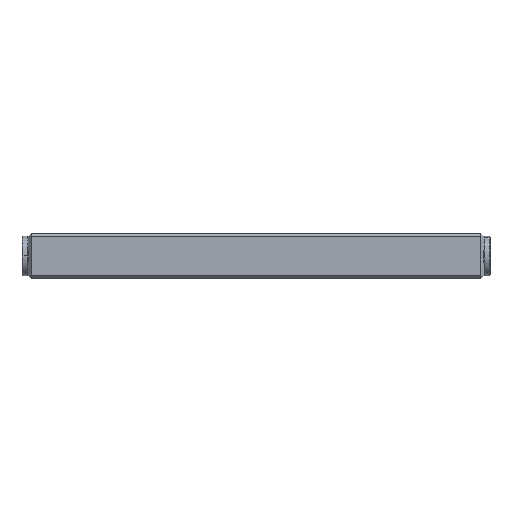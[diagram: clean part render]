
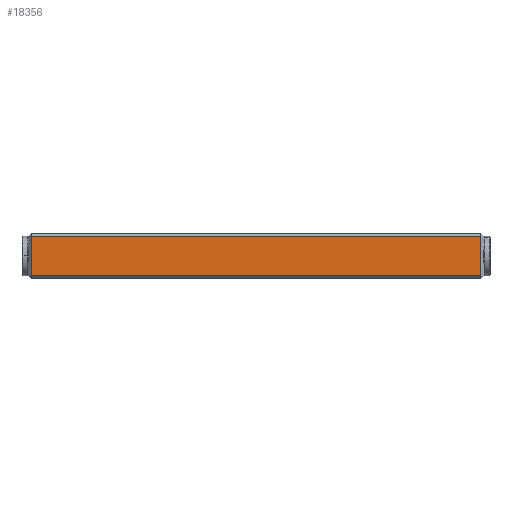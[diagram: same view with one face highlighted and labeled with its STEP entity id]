
A CAD part, top view. The second image highlights one B-rep face of the part: STEP entity #18356.
In plain terms, the highlighted planar face has unit normal (0, 0, 1).
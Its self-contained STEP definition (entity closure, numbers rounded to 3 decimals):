
#2445 = EDGE_CURVE ( 'NONE', #18573, #18633, #21160, .T. ) ;
#2446 = EDGE_CURVE ( 'NONE', #18633, #3783, #21164, .T. ) ;
#2447 = EDGE_CURVE ( 'NONE', #3783, #18602, #21168, .T. ) ;
#2448 = EDGE_CURVE ( 'NONE', #18602, #18573, #21170, .T. ) ;
#3471 = CARTESIAN_POINT ( 'NONE',  ( -62.687, 21.688, 23.929 ) ) ;
#3474 = CARTESIAN_POINT ( 'NONE',  ( 86.313, 22.688, 23.929 ) ) ;
#3479 = DIRECTION ( 'NONE',  ( 0., -1., 0. ) ) ;
#3481 = DIRECTION ( 'NONE',  ( 1., 0., 0. ) ) ;
#3482 = CARTESIAN_POINT ( 'NONE',  ( 85.313, 21.688, 23.929 ) ) ;
#3483 = DIRECTION ( 'NONE',  ( 0., 1., 0. ) ) ;
#3484 = CARTESIAN_POINT ( 'NONE',  ( 86.313, 35.688, 23.929 ) ) ;
#3485 = DIRECTION ( 'NONE',  ( -1., 0., 0. ) ) ;
#3783 = VERTEX_POINT ( 'NONE', #4287 ) ;
#4287 = CARTESIAN_POINT ( 'NONE',  ( 85.313, 22.688, 23.929 ) ) ;
#5529 = CARTESIAN_POINT ( 'NONE',  ( 86.313, 21.688, 23.929 ) ) ;
#5532 = PLANE ( 'NONE',  #7956 ) ;
#5534 = DIRECTION ( 'NONE',  ( 0., 0., -1. ) ) ;
#5535 = DIRECTION ( 'NONE',  ( 1., 0., 0. ) ) ;
#7956 = AXIS2_PLACEMENT_3D ( 'NONE', #5529, #5534, #5535 ) ;
#8220 = ORIENTED_EDGE ( 'NONE', *, *, #2445, .T. ) ;
#13391 = CARTESIAN_POINT ( 'NONE',  ( -62.687, 35.688, 23.929 ) ) ;
#13436 = CARTESIAN_POINT ( 'NONE',  ( 85.313, 35.688, 23.929 ) ) ;
#13487 = CARTESIAN_POINT ( 'NONE',  ( -62.687, 22.688, 23.929 ) ) ;
#16420 = FACE_OUTER_BOUND ( 'NONE', #20532, .T. ) ;
#18356 = ADVANCED_FACE ( 'NONE', ( #16420 ), #5532, .F. ) ;
#18573 = VERTEX_POINT ( 'NONE', #13391 ) ;
#18602 = VERTEX_POINT ( 'NONE', #13436 ) ;
#18633 = VERTEX_POINT ( 'NONE', #13487 ) ;
#18740 = ORIENTED_EDGE ( 'NONE', *, *, #2446, .T. ) ;
#19249 = ORIENTED_EDGE ( 'NONE', *, *, #2448, .T. ) ;
#19250 = ORIENTED_EDGE ( 'NONE', *, *, #2447, .T. ) ;
#20532 = EDGE_LOOP ( 'NONE', ( #18740, #19250, #19249, #8220 ) ) ;
#21160 = LINE ( 'NONE', #3471, #21167 ) ;
#21164 = LINE ( 'NONE', #3474, #21169 ) ;
#21167 = VECTOR ( 'NONE', #3479, 1000. ) ;
#21168 = LINE ( 'NONE', #3482, #21171 ) ;
#21169 = VECTOR ( 'NONE', #3481, 1000. ) ;
#21170 = LINE ( 'NONE', #3484, #21173 ) ;
#21171 = VECTOR ( 'NONE', #3483, 1000. ) ;
#21173 = VECTOR ( 'NONE', #3485, 1000. ) ;
